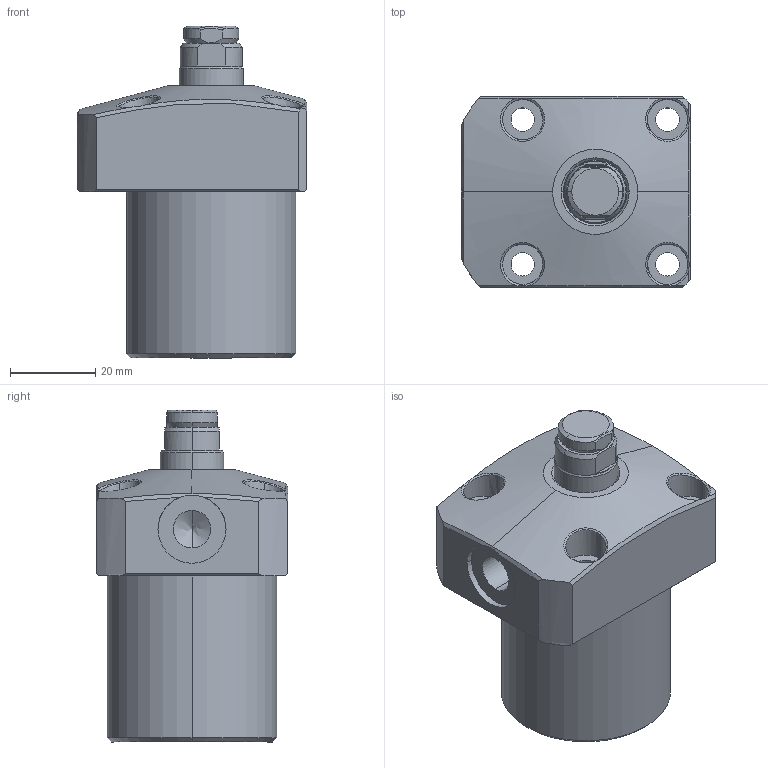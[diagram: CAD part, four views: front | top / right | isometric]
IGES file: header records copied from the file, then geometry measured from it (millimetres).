
Start section: SolidWorks IGES file using analytic representation for surfaces
Global section: file name: E:\FLANGE-WORK-SUPPORT-IGS MODEL\FW10-0401.IGS; native system: SolidWorks 2019; preprocessor: SolidWorks 2019; author: ADMIN; date: 200806.122756; units: millimetre
Bounding box: 54 x 45 x 78 mm (x, y, z)
Volume: 97550.5 mm3; surface area: 20091.1 mm2
Topology: 3 solids, 3 shells, 131 faces, 324 edges, 203 vertices
Faces by surface type: revolution 82, plane 35, bspline 14
